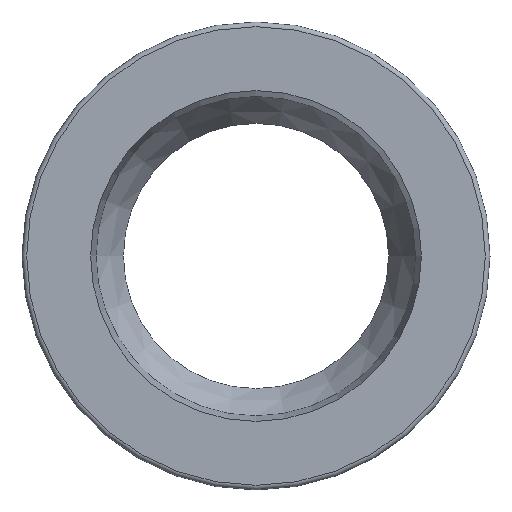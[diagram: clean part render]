
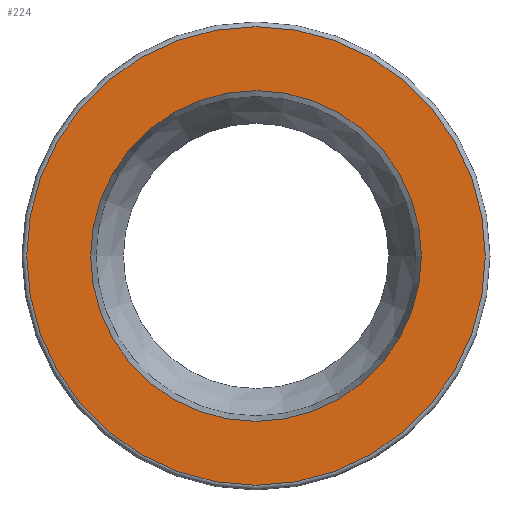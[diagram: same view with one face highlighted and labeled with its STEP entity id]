
A CAD part, left-side view. The second image highlights one B-rep face of the part: STEP entity #224.
In plain terms, the highlighted planar face has unit normal (-1, 0, 0).
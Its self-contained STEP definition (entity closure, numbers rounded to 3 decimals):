
#20=FACE_BOUND('',#66,.T.);
#24=PLANE('',#274);
#49=FACE_OUTER_BOUND('',#65,.T.);
#65=EDGE_LOOP('',(#176));
#66=EDGE_LOOP('',(#177));
#87=CIRCLE('',#270,14.7);
#90=CIRCLE('',#275,10.6);
#109=VERTEX_POINT('',#404);
#112=VERTEX_POINT('',#414);
#132=EDGE_CURVE('',#109,#109,#87,.T.);
#136=EDGE_CURVE('',#112,#112,#90,.T.);
#176=ORIENTED_EDGE('',*,*,#132,.F.);
#177=ORIENTED_EDGE('',*,*,#136,.T.);
#224=ADVANCED_FACE('',(#49,#20),#24,.T.);
#270=AXIS2_PLACEMENT_3D('',#406,#325,#326);
#274=AXIS2_PLACEMENT_3D('',#413,#334,#335);
#275=AXIS2_PLACEMENT_3D('',#415,#336,#337);
#325=DIRECTION('center_axis',(1.,0.,0.));
#326=DIRECTION('ref_axis',(0.,-1.,0.));
#334=DIRECTION('center_axis',(-1.,0.,0.));
#335=DIRECTION('ref_axis',(0.,0.,1.));
#336=DIRECTION('center_axis',(1.,0.,0.));
#337=DIRECTION('ref_axis',(0.,1.,0.));
#404=CARTESIAN_POINT('',(0.,0.,14.7));
#406=CARTESIAN_POINT('Origin',(0.,0.,
0.));
#413=CARTESIAN_POINT('Origin',(0.,12.8,0.));
#414=CARTESIAN_POINT('',(0.,-10.6,0.));
#415=CARTESIAN_POINT('Origin',(0.,0.,
0.));
